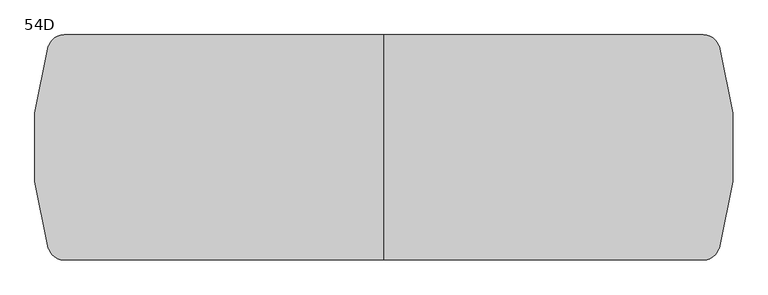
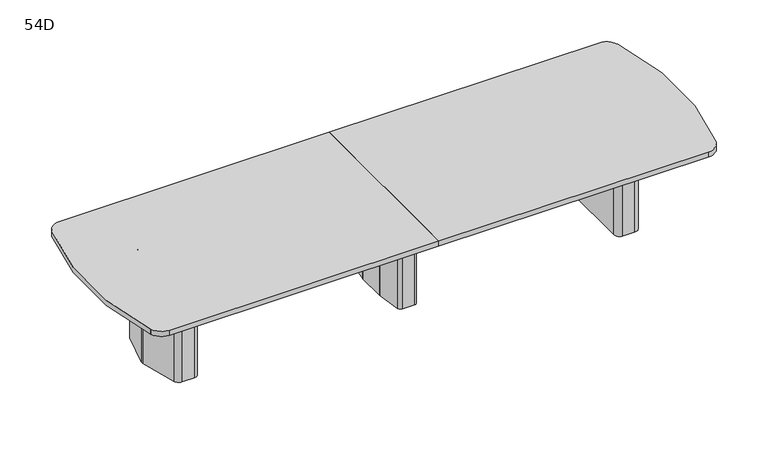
"""IFC4 building model written with IfcOpenShell, lengths in millimetres: furniture geometry, Coalesse_AM_Table_Conference_ETable2_SoftRadiused_14ft_ThreeBase : 54D."""

from ifc_helpers import new_model, si_unit, point, frame, frame_2d, origin, place, context, project, spatial, polyline, circle_curve, trimmed, segment, composite_curve, outline, extrude, source, transform, mapped, element, save
from ifc_brep_helpers import plane_surface, cylinder_surface, revolved_surface, advanced_brep


def furniture_54d_de50ac83(model_context):
    return source(origin(), model_context, "Body", "SolidModel", [
        advanced_brep(
        [(35.71875, 206.375, 3.175), (10.31875, 231.775, 3.175), (-10.31875, 231.775, 3.175), (-35.71875, 206.375, 3.175), (-35.71875, -206.375, 3.175), (-10.31875, -231.775, 3.175), (10.31875, -231.775, 3.175), (35.71875, -206.375, 3.175), (-61.11875, 206.375, 0.0), (-10.31875, 257.175, 0.0), (10.31875, 257.175, 0.0), (61.11875, 206.375, 0.0), (61.11875, -206.375, 0.0), (10.31875, -257.175, 0.0), (-10.31875, -257.175, 0.0), (-61.11875, -206.375, 0.0), (-61.11875, -206.375, 3.175), (-61.11875, 206.375, 3.175), (-10.31875, -257.175, 3.175), (10.31875, -257.175, 3.175), (61.11875, -206.375, 3.175), (61.11875, 206.375, 3.175), (10.31875, 257.175, 3.175), (-10.31875, 257.175, 3.175), (-92.6215974, 106.2976848, 698.5), (-92.86875, 102.7629613, 698.5), (-92.86875, -102.7629613, 698.5), (-92.6215974, -106.2976848, 698.5), (-67.7988375, -282.9347235, 698.5), (-42.6459902, -304.8, 698.5), (42.6459902, -304.8, 698.5), (67.7988375, -282.9347235, 698.5), (92.6215974, -106.2976848, 698.5), (92.86875, -102.7629613, 698.5), (92.86875, 102.7629613, 698.5), (92.6215974, 106.2976848, 698.5), (67.7988375, 282.9347235, 698.5), (42.6459902, 304.8, 698.5), (-42.6459902, 304.8, 698.5), (-67.7988375, 282.9347235, 698.5), (10.31875, 231.775, 698.5), (35.71875, 206.375, 698.5), (35.71875, -206.375, 698.5), (10.31875, -231.775, 698.5), (-10.31875, -231.775, 698.5), (-35.71875, -206.375, 698.5), (-35.71875, 206.375, 698.5), (-10.31875, 231.775, 698.5), (-92.6215974, 106.2976848, 3.175), (-67.7988375, 282.9347235, 3.175), (-42.6459902, 304.8, 3.175), (42.6459902, 304.8, 3.175), (67.7988375, 282.9347235, 3.175), (92.6215974, 106.2976848, 3.175), (92.86875, 102.7629613, 3.175), (92.86875, -102.7629613, 3.175), (92.6215974, -106.2976848, 3.175), (67.7988375, -282.9347235, 3.175), (42.6459902, -304.8, 3.175), (-42.6459902, -304.8, 3.175), (-67.7988375, -282.9347235, 3.175), (-92.6215974, -106.2976848, 3.175), (-92.86875, -102.7629613, 3.175), (-92.86875, 102.7629613, 3.175)],
        [
            (0, 1, circle_curve(frame((10.31875, 206.375, 3.175), z_axis=(0.0, 0.0, 1.0), x_axis=(1.0, 0.0, 0.0)), 25.4)),
            (1, 2),
            (2, 3, circle_curve(frame((-10.31875, 206.375, 3.175), z_axis=(0.0, 0.0, 1.0), x_axis=(1.0, 0.0, 0.0)), 25.4)),
            (3, 4),
            (4, 5, circle_curve(frame((-10.31875, -206.375, 3.175), z_axis=(0.0, 0.0, 1.0), x_axis=(1.0, 0.0, 0.0)), 25.4)),
            (5, 6),
            (6, 7, circle_curve(frame((10.31875, -206.375, 3.175), z_axis=(0.0, 0.0, 1.0), x_axis=(1.0, 0.0, 0.0)), 25.4)),
            (7, 0),
            (8, 9, circle_curve(frame((-10.31875, 206.375, 0.0), z_axis=(0.0, 0.0, -1.0), x_axis=(1.0, 0.0, 0.0)), 50.8)),
            (9, 10),
            (10, 11, circle_curve(frame((10.31875, 206.375, 0.0), z_axis=(0.0, 0.0, -1.0), x_axis=(1.0, 0.0, 0.0)), 50.8)),
            (11, 12),
            (12, 13, circle_curve(frame((10.31875, -206.375, 0.0), z_axis=(0.0, 0.0, -1.0), x_axis=(1.0, 0.0, 0.0)), 50.8)),
            (13, 14),
            (14, 15, circle_curve(frame((-10.31875, -206.375, 0.0), z_axis=(0.0, 0.0, -1.0), x_axis=(1.0, 0.0, 0.0)), 50.8)),
            (15, 8),
            (15, 16),
            (16, 17),
            (17, 8),
            (14, 18),
            (18, 16, circle_curve(frame((-10.31875, -206.375, 3.175), z_axis=(0.0, 0.0, -1.0), x_axis=(1.0, 0.0, 0.0)), 50.8)),
            (13, 19),
            (19, 18),
            (12, 20),
            (20, 19, circle_curve(frame((10.31875, -206.375, 3.175), z_axis=(0.0, 0.0, -1.0), x_axis=(1.0, 0.0, 0.0)), 50.8)),
            (11, 21),
            (21, 20),
            (10, 22),
            (22, 21, circle_curve(frame((10.31875, 206.375, 3.175), z_axis=(0.0, 0.0, -1.0), x_axis=(1.0, 0.0, 0.0)), 50.8)),
            (9, 23),
            (23, 22),
            (17, 23, circle_curve(frame((-10.31875, 206.375, 3.175), z_axis=(0.0, 0.0, -1.0), x_axis=(1.0, 0.0, 0.0)), 50.8)),
            (24, 25, circle_curve(frame((-67.46875, 102.7629613, 698.5), z_axis=(0.0, 0.0, 1.0), x_axis=(1.0, 0.0, 0.0)), 25.4)),
            (25, 26),
            (26, 27, circle_curve(frame((-67.46875, -102.7629613, 698.5), z_axis=(0.0, 0.0, 1.0), x_axis=(1.0, 0.0, 0.0)), 25.4)),
            (27, 28),
            (28, 29, circle_curve(frame((-42.6459902, -279.4, 698.5), z_axis=(0.0, 0.0, 1.0), x_axis=(1.0, 0.0, 0.0)), 25.4)),
            (29, 30),
            (30, 31, circle_curve(frame((42.6459902, -279.4, 698.5), z_axis=(0.0, 0.0, 1.0), x_axis=(1.0, 0.0, 0.0)), 25.4)),
            (31, 32),
            (32, 33, circle_curve(frame((67.46875, -102.7629613, 698.5), z_axis=(0.0, 0.0, 1.0), x_axis=(1.0, 0.0, 0.0)), 25.4)),
            (33, 34),
            (34, 35, circle_curve(frame((67.46875, 102.7629613, 698.5), z_axis=(0.0, 0.0, 1.0), x_axis=(1.0, 0.0, 0.0)), 25.4)),
            (35, 36),
            (36, 37, circle_curve(frame((42.6459902, 279.4, 698.5), z_axis=(0.0, 0.0, 1.0), x_axis=(1.0, 0.0, 0.0)), 25.4)),
            (37, 38),
            (38, 39, circle_curve(frame((-42.6459902, 279.4, 698.5), z_axis=(0.0, 0.0, 1.0), x_axis=(1.0, 0.0, 0.0)), 25.4)),
            (39, 24),
            (40, 41, circle_curve(frame((10.31875, 206.375, 698.5), z_axis=(0.0, 0.0, -1.0), x_axis=(1.0, 0.0, 0.0)), 25.4)),
            (41, 42),
            (42, 43, circle_curve(frame((10.31875, -206.375, 698.5), z_axis=(0.0, 0.0, -1.0), x_axis=(1.0, 0.0, 0.0)), 25.4)),
            (43, 44),
            (44, 45, circle_curve(frame((-10.31875, -206.375, 698.5), z_axis=(0.0, 0.0, -1.0), x_axis=(1.0, 0.0, 0.0)), 25.4)),
            (45, 46),
            (46, 47, circle_curve(frame((-10.31875, 206.375, 698.5), z_axis=(0.0, 0.0, -1.0), x_axis=(1.0, 0.0, 0.0)), 25.4)),
            (47, 40),
            (48, 49),
            (49, 50, circle_curve(frame((-42.6459902, 279.4, 3.175), z_axis=(0.0, 0.0, -1.0), x_axis=(1.0, 0.0, 0.0)), 25.4)),
            (50, 51),
            (51, 52, circle_curve(frame((42.6459902, 279.4, 3.175), z_axis=(0.0, 0.0, -1.0), x_axis=(1.0, 0.0, 0.0)), 25.4)),
            (52, 53),
            (53, 54, circle_curve(frame((67.46875, 102.7629613, 3.175), z_axis=(0.0, 0.0, -1.0), x_axis=(1.0, 0.0, 0.0)), 25.4)),
            (54, 55),
            (55, 56, circle_curve(frame((67.46875, -102.7629613, 3.175), z_axis=(0.0, 0.0, -1.0), x_axis=(1.0, 0.0, 0.0)), 25.4)),
            (56, 57),
            (57, 58, circle_curve(frame((42.6459902, -279.4, 3.175), z_axis=(0.0, 0.0, -1.0), x_axis=(1.0, 0.0, 0.0)), 25.4)),
            (58, 59),
            (59, 60, circle_curve(frame((-42.6459902, -279.4, 3.175), z_axis=(0.0, 0.0, -1.0), x_axis=(1.0, 0.0, 0.0)), 25.4)),
            (60, 61),
            (61, 62, circle_curve(frame((-67.46875, -102.7629613, 3.175), z_axis=(0.0, 0.0, -1.0), x_axis=(1.0, 0.0, 0.0)), 25.4)),
            (62, 63),
            (63, 48, circle_curve(frame((-67.46875, 102.7629613, 3.175), z_axis=(0.0, 0.0, -1.0), x_axis=(1.0, 0.0, 0.0)), 25.4)),
            (24, 48),
            (63, 25),
            (62, 26),
            (61, 27),
            (60, 28),
            (59, 29),
            (58, 30),
            (57, 31),
            (56, 32),
            (55, 33),
            (54, 34),
            (53, 35),
            (52, 36),
            (51, 37),
            (50, 38),
            (49, 39),
            (40, 1),
            (0, 41),
            (7, 42),
            (6, 43),
            (5, 44),
            (4, 45),
            (3, 46),
            (2, 47),
        ],
        [
            plane_surface(frame((-61.11875, -206.375, 3.175), z_axis=(0.0, 0.0, 1.0), x_axis=(0.0, -1.0, 0.0))),
            plane_surface(frame((-61.11875, -206.375, 0.0), z_axis=(0.0, 0.0, -1.0), x_axis=(0.0, 1.0, 0.0))),
            plane_surface(frame((-61.11875, 206.375, 3.175), z_axis=(-1.0, 0.0, 0.0), x_axis=(0.0, 0.0, -1.0))),
            cylinder_surface(frame((-10.31875, -206.375, 0.0), z_axis=(0.0, 0.0, 1.0), x_axis=(1.0, 0.0, 0.0)), 50.8),
            plane_surface(frame((-10.31875, -257.175, 3.175), z_axis=(0.0, -1.0, 0.0), x_axis=(0.0, 0.0, -1.0))),
            cylinder_surface(frame((10.31875, -206.375, 0.0), z_axis=(0.0, 0.0, 1.0), x_axis=(1.0, 0.0, 0.0)), 50.8),
            plane_surface(frame((61.11875, -206.375, 3.175), z_axis=(1.0, 0.0, 0.0), x_axis=(0.0, 0.0, -1.0))),
            cylinder_surface(frame((10.31875, 206.375, 0.0), z_axis=(0.0, 0.0, 1.0), x_axis=(1.0, 0.0, 0.0)), 50.8),
            plane_surface(frame((10.31875, 257.175, 3.175), z_axis=(0.0, 1.0, 0.0), x_axis=(0.0, 0.0, -1.0))),
            cylinder_surface(frame((-10.31875, 206.375, 0.0), z_axis=(0.0, 0.0, 1.0), x_axis=(1.0, 0.0, 0.0)), 50.8),
            plane_surface(frame((-42.06875, 102.7629613, 698.5), z_axis=(0.0, 0.0, 1.0), x_axis=(0.0, 1.0, 0.0))),
            plane_surface(frame((-42.06875, 102.7629613, 3.175), z_axis=(0.0, 0.0, -1.0), x_axis=(0.0, -1.0, 0.0))),
            cylinder_surface(frame((-67.46875, 102.7629613, 3.175), z_axis=(0.0, 0.0, 1.0), x_axis=(1.0, 0.0, 0.0)), 25.4),
            plane_surface(frame((-92.86875, 102.7629613, 698.5), z_axis=(-1.0, 0.0, 0.0), x_axis=(0.0, 0.0, -1.0))),
            cylinder_surface(frame((-67.46875, -102.7629613, 3.175), z_axis=(0.0, 0.0, 1.0), x_axis=(1.0, 0.0, 0.0)), 25.4),
            plane_surface(frame((-92.6215974, -106.2976848, 698.5), z_axis=(-0.9902695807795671, -0.13916234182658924, 0.0), x_axis=(0.0, 0.0, -1.0))),
            cylinder_surface(frame((-42.6459902, -279.4, 3.175), z_axis=(0.0, 0.0, 1.0), x_axis=(1.0, 0.0, 0.0)), 25.4),
            plane_surface(frame((-42.6459902, -304.8, 698.5), z_axis=(0.0, -1.0, 0.0), x_axis=(0.0, 0.0, -1.0))),
            cylinder_surface(frame((42.6459902, -279.4, 3.175), z_axis=(0.0, 0.0, 1.0), x_axis=(1.0, 0.0, 0.0)), 25.4),
            plane_surface(frame((67.7988375, -282.9347235, 698.5), z_axis=(0.9902695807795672, -0.13916234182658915, 0.0), x_axis=(0.0, 0.0, -1.0))),
            cylinder_surface(frame((67.46875, -102.7629613, 3.175), z_axis=(0.0, 0.0, 1.0), x_axis=(1.0, 0.0, 0.0)), 25.4),
            plane_surface(frame((92.86875, -102.7629613, 698.5), z_axis=(1.0, 0.0, 0.0), x_axis=(0.0, 0.0, -1.0))),
            cylinder_surface(frame((67.46875, 102.7629613, 3.175), z_axis=(0.0, 0.0, 1.0), x_axis=(1.0, 0.0, 0.0)), 25.4),
            plane_surface(frame((92.6215974, 106.2976848, 698.5), z_axis=(0.9902695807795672, 0.1391623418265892, 0.0), x_axis=(0.0, 0.0, -1.0))),
            cylinder_surface(frame((42.6459902, 279.4, 3.175), z_axis=(0.0, 0.0, 1.0), x_axis=(1.0, 0.0, 0.0)), 25.4),
            plane_surface(frame((42.6459902, 304.8, 698.5), z_axis=(0.0, 1.0, 0.0), x_axis=(0.0, 0.0, -1.0))),
            cylinder_surface(frame((-42.6459902, 279.4, 3.175), z_axis=(0.0, 0.0, 1.0), x_axis=(1.0, 0.0, 0.0)), 25.4),
            plane_surface(frame((-67.7988375, 282.9347235, 698.5), z_axis=(-0.9902695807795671, 0.13916234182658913, 0.0), x_axis=(0.0, 0.0, -1.0))),
            revolved_surface(polyline([(35.71875, 206.375, 3.175), (35.71875, 206.375, 698.5)]), (10.31875, 206.375, 0.0), (0.0, 0.0, -1.0)),
            plane_surface(frame((35.71875, 206.375, 698.5), z_axis=(-1.0, 0.0, 0.0), x_axis=(0.0, 0.0, -1.0))),
            revolved_surface(polyline([(35.71875, -206.375, 3.175), (35.71875, -206.375, 698.5)]), (10.31875, -206.375, 0.0), (0.0, 0.0, -1.0)),
            plane_surface(frame((10.31875, -231.775, 698.5), z_axis=(0.0, 1.0, 0.0), x_axis=(0.0, 0.0, -1.0))),
            revolved_surface(polyline([(15.081249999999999, -206.375, 3.175), (15.081249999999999, -206.375, 698.5)]), (-10.31875, -206.375, 0.0), (0.0, 0.0, -1.0)),
            plane_surface(frame((-35.71875, -206.375, 698.5), z_axis=(1.0, 0.0, 0.0), x_axis=(0.0, 0.0, -1.0))),
            revolved_surface(polyline([(15.081249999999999, 206.375, 3.175), (15.081249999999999, 206.375, 698.5)]), (-10.31875, 206.375, 0.0), (0.0, 0.0, -1.0)),
            plane_surface(frame((-10.31875, 231.775, 698.5), z_axis=(0.0, -1.0, 0.0), x_axis=(0.0, 0.0, -1.0))),
        ],
        [
            (0, [[1, 2, 3, 4, 5, 6, 7, 8]]),
            (1, [[9, 10, 11, 12, 13, 14, 15, 16]]),
            (2, [[-16, 17, 18, 19]]),
            (3, [[-15, 20, 21, -17]]),
            (4, [[-14, 22, 23, -20]]),
            (5, [[-13, 24, 25, -22]]),
            (6, [[-12, 26, 27, -24]]),
            (7, [[-11, 28, 29, -26]]),
            (8, [[-10, 30, 31, -28]]),
            (9, [[-9, -19, 32, -30]]),
            (10, [[33, 34, 35, 36, 37, 38, 39, 40, 41, 42, 43, 44, 45, 46, 47, 48], [49, 50, 51, 52, 53, 54, 55, 56]]),
            (11, [[57, 58, 59, 60, 61, 62, 63, 64, 65, 66, 67, 68, 69, 70, 71, 72], [-18, -21, -23, -25, -27, -29, -31, -32]]),
            (12, [[-33, 73, -72, 74]]),
            (13, [[-34, -74, -71, 75]]),
            (14, [[-35, -75, -70, 76]]),
            (15, [[-36, -76, -69, 77]]),
            (16, [[-37, -77, -68, 78]]),
            (17, [[-38, -78, -67, 79]]),
            (18, [[-39, -79, -66, 80]]),
            (19, [[-40, -80, -65, 81]]),
            (20, [[-41, -81, -64, 82]]),
            (21, [[-42, -82, -63, 83]]),
            (22, [[-43, -83, -62, 84]]),
            (23, [[-44, -84, -61, 85]]),
            (24, [[-45, -85, -60, 86]]),
            (25, [[-46, -86, -59, 87]]),
            (26, [[-47, -87, -58, 88]]),
            (27, [[-48, -88, -57, -73]]),
            (28, [[-49, 89, -1, 90]]),
            (29, [[-50, -90, -8, 91]]),
            (30, [[-51, -91, -7, 92]]),
            (31, [[-52, -92, -6, 93]]),
            (32, [[-53, -93, -5, 94]]),
            (33, [[-54, -94, -4, 95]]),
            (34, [[-55, -95, -3, 96]]),
            (35, [[-56, -96, -2, -89]]),
        ],
    ),
        advanced_brep(
        [(1675.024548, 274.2093613, 698.5), (1635.1579246, 304.8, 698.5), (1546.225, 304.8, 698.5), (1504.95, 263.525, 698.5), (1504.95, -263.525, 698.5), (1546.225, -304.8, 698.5), (1635.1579246, -304.8, 698.5), (1675.024548, -274.2093613, 698.5), (1745.6503901, -10.6333708, 698.5), (1745.6503901, 10.6333708, 698.5), (1543.05, -206.375, 698.5), (1543.05, 206.375, 698.5), (1568.45, 231.775, 698.5), (1627.4608422, 231.775, 698.5), (1651.995338, 212.9490792, 698.5), (1690.6875, 68.54974, 698.5), (1690.6875, -68.54974, 698.5), (1651.995338, -212.9490792, 698.5), (1627.4608422, -231.775, 698.5), (1568.45, -231.775, 698.5), (1675.024548, 274.2093613, 3.175), (1745.6503901, 10.6333708, 3.175), (1745.6503901, -10.6333708, 3.175), (1675.024548, -274.2093613, 3.175), (1635.1579246, -304.8, 3.175), (1546.225, -304.8, 3.175), (1504.95, -263.525, 3.175), (1504.95, 263.525, 3.175), (1546.225, 304.8, 3.175), (1635.1579246, 304.8, 3.175), (1664.2625859, 216.2361187, 3.175), (1627.4608422, 244.475, 3.175), (1568.45, 244.475, 3.175), (1530.35, 206.375, 3.175), (1530.35, -206.375, 3.175), (1568.45, -244.475, 3.175), (1627.4608422, -244.475, 3.175), (1664.2625859, -216.2361187, 3.175), (1703.3875, -70.2217466, 3.175), (1703.3875, 70.2217466, 3.175), (1568.45, -231.775, 3.175), (1543.05, -206.375, 3.175), (1627.4608422, -231.775, 3.175), (1651.995338, -212.9490792, 3.175), (1690.6875, -68.54974, 3.175), (1690.6875, 68.54974, 3.175), (1651.995338, 212.9490792, 3.175), (1627.4608422, 231.775, 3.175), (1568.45, 231.775, 3.175), (1543.05, 206.375, 3.175), (1664.2625859, 216.2361187, 0.0), (1703.3875, 70.2217466, 0.0), (1703.3875, -70.2217466, 0.0), (1664.2625859, -216.2361187, 0.0), (1627.4608422, -244.475, 0.0), (1568.45, -244.475, 0.0), (1530.35, -206.375, 0.0), (1530.35, 206.375, 0.0), (1568.45, 244.475, 0.0), (1627.4608422, 244.475, 0.0)],
        [
            (0, 1, circle_curve(frame((1635.1579246, 263.5270004, 698.5), z_axis=(0.0, 0.0, 1.0), x_axis=(-1.0, 0.0, 0.0)), 41.2729996)),
            (1, 2),
            (2, 3, circle_curve(frame((1546.225, 263.525, 698.5), z_axis=(0.0, 0.0, 1.0), x_axis=(-1.0, 0.0, 0.0)), 41.275)),
            (3, 4),
            (4, 5, circle_curve(frame((1546.225, -263.525, 698.5), z_axis=(0.0, 0.0, 1.0), x_axis=(-1.0, 0.0, 0.0)), 41.275)),
            (5, 6),
            (6, 7, circle_curve(frame((1635.1579246, -263.5270004, 698.5), z_axis=(0.0, 0.0, 1.0), x_axis=(-1.0, 0.0, 0.0)), 41.2729996)),
            (7, 8),
            (8, 9, circle_curve(frame((1705.9665979, 0.0, 698.5), z_axis=(0.0, 0.0, 1.0), x_axis=(-1.0, 0.0, 0.0)), 41.0837187)),
            (9, 0),
            (10, 11),
            (11, 12, circle_curve(frame((1568.45, 206.375, 698.5), z_axis=(0.0, 0.0, -1.0), x_axis=(-1.0, 0.0, 0.0)), 25.4)),
            (12, 13),
            (13, 14, circle_curve(frame((1627.4608422, 206.375, 698.5), z_axis=(0.0, 0.0, -1.0), x_axis=(-1.0, 0.0, 0.0)), 25.4)),
            (14, 15),
            (15, 16),
            (16, 17),
            (17, 18, circle_curve(frame((1627.4608422, -206.375, 698.5), z_axis=(0.0, 0.0, -1.0), x_axis=(-1.0, 0.0, 0.0)), 25.4)),
            (18, 19),
            (19, 10, circle_curve(frame((1568.45, -206.375, 698.5), z_axis=(0.0, 0.0, -1.0), x_axis=(-1.0, 0.0, 0.0)), 25.4)),
            (20, 21),
            (21, 22, circle_curve(frame((1705.9665979, 0.0, 3.175), z_axis=(0.0, 0.0, -1.0), x_axis=(-1.0, 0.0, 0.0)), 41.0837187)),
            (22, 23),
            (23, 24, circle_curve(frame((1635.1579246, -263.5270004, 3.175), z_axis=(0.0, 0.0, -1.0), x_axis=(-1.0, 0.0, 0.0)), 41.2729996)),
            (24, 25),
            (25, 26, circle_curve(frame((1546.225, -263.525, 3.175), z_axis=(0.0, 0.0, -1.0), x_axis=(-1.0, 0.0, 0.0)), 41.275)),
            (26, 27),
            (27, 28, circle_curve(frame((1546.225, 263.525, 3.175), z_axis=(0.0, 0.0, -1.0), x_axis=(-1.0, 0.0, 0.0)), 41.275)),
            (28, 29),
            (29, 20, circle_curve(frame((1635.1579246, 263.5270004, 3.175), z_axis=(0.0, 0.0, -1.0), x_axis=(-1.0, 0.0, 0.0)), 41.2729996)),
            (30, 31, circle_curve(frame((1627.4608422, 206.375, 3.175), z_axis=(0.0, 0.0, 1.0), x_axis=(-1.0, 0.0, 0.0)), 38.1)),
            (31, 32),
            (32, 33, circle_curve(frame((1568.45, 206.375, 3.175), z_axis=(0.0, 0.0, 1.0), x_axis=(-1.0, 0.0, 0.0)), 38.1)),
            (33, 34),
            (34, 35, circle_curve(frame((1568.45, -206.375, 3.175), z_axis=(0.0, 0.0, 1.0), x_axis=(-1.0, 0.0, 0.0)), 38.1)),
            (35, 36),
            (36, 37, circle_curve(frame((1627.4608422, -206.375, 3.175), z_axis=(0.0, 0.0, 1.0), x_axis=(-1.0, 0.0, 0.0)), 38.1)),
            (37, 38),
            (38, 39),
            (39, 30),
            (9, 21),
            (20, 0),
            (8, 22),
            (7, 23),
            (6, 24),
            (5, 25),
            (4, 26),
            (3, 27),
            (2, 28),
            (1, 29),
            (19, 40),
            (40, 41, circle_curve(frame((1568.45, -206.375, 3.175), z_axis=(0.0, 0.0, -1.0), x_axis=(-1.0, 0.0, 0.0)), 25.4)),
            (41, 10),
            (18, 42),
            (42, 40),
            (17, 43),
            (43, 42, circle_curve(frame((1627.4608422, -206.375, 3.175), z_axis=(0.0, 0.0, -1.0), x_axis=(-1.0, 0.0, 0.0)), 25.4)),
            (16, 44),
            (44, 43),
            (15, 45),
            (45, 44),
            (14, 46),
            (46, 45),
            (13, 47),
            (47, 46, circle_curve(frame((1627.4608422, 206.375, 3.175), z_axis=(0.0, 0.0, -1.0), x_axis=(-1.0, 0.0, 0.0)), 25.4)),
            (12, 48),
            (48, 47),
            (11, 49),
            (49, 48, circle_curve(frame((1568.45, 206.375, 3.175), z_axis=(0.0, 0.0, -1.0), x_axis=(-1.0, 0.0, 0.0)), 25.4)),
            (41, 49),
            (50, 51),
            (51, 52),
            (52, 53),
            (53, 54, circle_curve(frame((1627.4608422, -206.375, 0.0), z_axis=(0.0, 0.0, -1.0), x_axis=(-1.0, 0.0, 0.0)), 38.1)),
            (54, 55),
            (55, 56, circle_curve(frame((1568.45, -206.375, 0.0), z_axis=(0.0, 0.0, -1.0), x_axis=(-1.0, 0.0, 0.0)), 38.1)),
            (56, 57),
            (57, 58, circle_curve(frame((1568.45, 206.375, 0.0), z_axis=(0.0, 0.0, -1.0), x_axis=(-1.0, 0.0, 0.0)), 38.1)),
            (58, 59),
            (59, 50, circle_curve(frame((1627.4608422, 206.375, 0.0), z_axis=(0.0, 0.0, -1.0), x_axis=(-1.0, 0.0, 0.0)), 38.1)),
            (50, 30),
            (39, 51),
            (38, 52),
            (37, 53),
            (36, 54),
            (35, 55),
            (34, 56),
            (33, 57),
            (32, 58),
            (31, 59),
        ],
        [
            plane_surface(frame((1745.6374275, 10.6817473, 698.5), z_axis=(0.0, 0.0, 1.0000000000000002), x_axis=(0.25882201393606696, -0.9659250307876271, 0.0))),
            plane_surface(frame((1745.6374275, 10.6817473, 3.175), z_axis=(0.0, 0.0, -1.0000000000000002), x_axis=(-0.25882201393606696, 0.9659250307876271, 0.0))),
            plane_surface(frame((1675.024548, 274.2093613, 698.5), z_axis=(0.9659250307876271, 0.25882201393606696, 0.0), x_axis=(0.0, 0.0, -1.0))),
            cylinder_surface(frame((1705.9665979, 0.0, 3.175), z_axis=(0.0, 0.0, 1.0), x_axis=(-1.0, 0.0, 0.0)), 41.0837187),
            plane_surface(frame((1745.6503901, -10.6333708, 698.5), z_axis=(0.9659250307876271, -0.2588220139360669, 0.0), x_axis=(0.0, 0.0, -1.0))),
            cylinder_surface(frame((1635.1579246, -263.5270004, 3.175), z_axis=(0.0, 0.0, 1.0), x_axis=(-1.0, 0.0, 0.0)), 41.2729996),
            plane_surface(frame((1635.1579246, -304.8, 698.5), z_axis=(0.0, -1.0, 0.0), x_axis=(0.0, 0.0, -1.0))),
            cylinder_surface(frame((1546.225, -263.525, 3.175), z_axis=(0.0, 0.0, 1.0), x_axis=(-1.0, 0.0, 0.0)), 41.275),
            plane_surface(frame((1504.95, -263.525, 698.5), z_axis=(-1.0, 0.0, 0.0), x_axis=(0.0, 0.0, -1.0))),
            cylinder_surface(frame((1546.225, 263.525, 3.175), z_axis=(0.0, 0.0, 1.0), x_axis=(-1.0, 0.0, 0.0)), 41.275),
            plane_surface(frame((1546.225, 304.8, 698.5), z_axis=(0.0, 1.0, 0.0), x_axis=(0.0, 0.0, -1.0))),
            cylinder_surface(frame((1635.1579246, 263.5270004, 3.175), z_axis=(0.0, 0.0, 1.0), x_axis=(-1.0, 0.0, 0.0)), 41.2729996),
            revolved_surface(polyline([(1543.05, -206.375, 3.175), (1543.05, -206.375, 698.5)]), (1568.45, -206.375, 0.0), (0.0, 0.0, -1.0)),
            plane_surface(frame((1568.45, -231.775, 698.5), z_axis=(0.0, 1.0, 0.0), x_axis=(0.0, 0.0, -1.0))),
            revolved_surface(polyline([(1602.0608421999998, -206.375, 3.175), (1602.0608421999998, -206.375, 698.5)]), (1627.4608422, -206.375, 0.0), (0.0, 0.0, -1.0)),
            plane_surface(frame((1651.995338, -212.9490792, 698.5), z_axis=(-0.9659250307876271, 0.2588220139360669, 0.0), x_axis=(0.0, 0.0, -1.0))),
            plane_surface(frame((1690.6875, -68.54974, 698.5), z_axis=(-1.0, 0.0, 0.0), x_axis=(0.0, 0.0, -1.0))),
            plane_surface(frame((1690.6875, 68.54974, 698.5), z_axis=(-0.9659250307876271, -0.25882201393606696, 0.0), x_axis=(0.0, 0.0, -1.0))),
            revolved_surface(polyline([(1602.0608421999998, 206.375, 3.175), (1602.0608421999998, 206.375, 698.5)]), (1627.4608422, 206.375, 0.0), (0.0, 0.0, -1.0)),
            plane_surface(frame((1627.4608422, 231.775, 698.5), z_axis=(0.0, -1.0, 0.0), x_axis=(0.0, 0.0, -1.0))),
            revolved_surface(polyline([(1543.05, 206.375, 3.175), (1543.05, 206.375, 698.5)]), (1568.45, 206.375, 0.0), (0.0, 0.0, -1.0)),
            plane_surface(frame((1543.05, 206.375, 698.5), z_axis=(1.0, 0.0, 0.0), x_axis=(0.0, 0.0, -1.0))),
            plane_surface(frame((1702.9547479, 71.8367796, 3.175), z_axis=(0.0, 0.0, 1.0), x_axis=(0.25882201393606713, -0.965925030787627, 0.0))),
            plane_surface(frame((1702.9547479, 71.8367796, 0.0), z_axis=(0.0, 0.0, -1.0), x_axis=(-0.25882201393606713, 0.965925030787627, 0.0))),
            plane_surface(frame((1664.2625859, 216.2361187, 3.175), z_axis=(0.965925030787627, 0.25882201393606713, 0.0), x_axis=(0.0, 0.0, -1.0))),
            plane_surface(frame((1703.3875, 70.2217466, 3.175), z_axis=(1.0, 0.0, 0.0), x_axis=(0.0, 0.0, -1.0))),
            plane_surface(frame((1703.3875, -70.2217466, 3.175), z_axis=(0.9659250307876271, -0.2588220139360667, 0.0), x_axis=(0.0, 0.0, -1.0))),
            cylinder_surface(frame((1627.4608422, -206.375, 0.0), z_axis=(0.0, 0.0, 1.0), x_axis=(-1.0, 0.0, 0.0)), 38.1),
            plane_surface(frame((1627.4608422, -244.475, 3.175), z_axis=(0.0, -1.0, 0.0), x_axis=(0.0, 0.0, -1.0))),
            cylinder_surface(frame((1568.45, -206.375, 0.0), z_axis=(0.0, 0.0, 1.0), x_axis=(-1.0, 0.0, 0.0)), 38.1),
            plane_surface(frame((1530.35, -206.375, 3.175), z_axis=(-1.0, 0.0, 0.0), x_axis=(0.0, 0.0, -1.0))),
            cylinder_surface(frame((1568.45, 206.375, 0.0), z_axis=(0.0, 0.0, 1.0), x_axis=(-1.0, 0.0, 0.0)), 38.1),
            plane_surface(frame((1568.45, 244.475, 3.175), z_axis=(0.0, 1.0, 0.0), x_axis=(0.0, 0.0, -1.0))),
            cylinder_surface(frame((1627.4608422, 206.375, 0.0), z_axis=(0.0, 0.0, 1.0), x_axis=(-1.0, 0.0, 0.0)), 38.1),
        ],
        [
            (0, [[1, 2, 3, 4, 5, 6, 7, 8, 9, 10], [11, 12, 13, 14, 15, 16, 17, 18, 19, 20]]),
            (1, [[21, 22, 23, 24, 25, 26, 27, 28, 29, 30], [31, 32, 33, 34, 35, 36, 37, 38, 39, 40]]),
            (2, [[41, -21, 42, -10]]),
            (3, [[43, -22, -41, -9]]),
            (4, [[44, -23, -43, -8]]),
            (5, [[45, -24, -44, -7]]),
            (6, [[46, -25, -45, -6]]),
            (7, [[47, -26, -46, -5]]),
            (8, [[48, -27, -47, -4]]),
            (9, [[49, -28, -48, -3]]),
            (10, [[50, -29, -49, -2]]),
            (11, [[-42, -30, -50, -1]]),
            (12, [[51, 52, 53, -20]]),
            (13, [[54, 55, -51, -19]]),
            (14, [[56, 57, -54, -18]]),
            (15, [[58, 59, -56, -17]]),
            (16, [[60, 61, -58, -16]]),
            (17, [[62, 63, -60, -15]]),
            (18, [[64, 65, -62, -14]]),
            (19, [[66, 67, -64, -13]]),
            (20, [[68, 69, -66, -12]]),
            (21, [[-53, 70, -68, -11]]),
            (22, [[-55, -57, -59, -61, -63, -65, -67, -69, -70, -52]]),
            (23, [[71, 72, 73, 74, 75, 76, 77, 78, 79, 80]]),
            (24, [[81, -40, 82, -71]]),
            (25, [[-82, -39, 83, -72]]),
            (26, [[-83, -38, 84, -73]]),
            (27, [[-84, -37, 85, -74]]),
            (28, [[-85, -36, 86, -75]]),
            (29, [[-86, -35, 87, -76]]),
            (30, [[-87, -34, 88, -77]]),
            (31, [[-88, -33, 89, -78]]),
            (32, [[-89, -32, 90, -79]]),
            (33, [[-90, -31, -81, -80]]),
        ],
    ),
        advanced_brep(
        [(-1675.024548, 274.2093613, 698.5), (-1745.6503901, 10.6333708, 698.5), (-1745.6503901, -10.6333708, 698.5), (-1675.024548, -274.2093613, 698.5), (-1635.1579246, -304.8, 698.5), (-1546.225, -304.8, 698.5), (-1504.95, -263.525, 698.5), (-1504.95, 263.525, 698.5), (-1546.225, 304.8, 698.5), (-1635.1579246, 304.8, 698.5), (-1543.05, -206.375, 698.5), (-1568.45, -231.775, 698.5), (-1627.4608422, -231.775, 698.5), (-1651.995338, -212.9490792, 698.5), (-1690.6875, -68.54974, 698.5), (-1690.6875, 68.54974, 698.5), (-1651.995338, 212.9490792, 698.5), (-1627.4608422, 231.775, 698.5), (-1568.45, 231.775, 698.5), (-1543.05, 206.375, 698.5), (-1675.024548, 274.2093613, 3.175), (-1635.1579246, 304.8, 3.175), (-1546.225, 304.8, 3.175), (-1504.95, 263.525, 3.175), (-1504.95, -263.525, 3.175), (-1546.225, -304.8, 3.175), (-1635.1579246, -304.8, 3.175), (-1675.024548, -274.2093613, 3.175), (-1745.6503901, -10.6333708, 3.175), (-1745.6503901, 10.6333708, 3.175), (-1664.2625859, 216.2361187, 3.175), (-1703.3875, 70.2217466, 3.175), (-1703.3875, -70.2217466, 3.175), (-1664.2625859, -216.2361187, 3.175), (-1627.4608422, -244.475, 3.175), (-1568.45, -244.475, 3.175), (-1530.35, -206.375, 3.175), (-1530.35, 206.375, 3.175), (-1568.45, 244.475, 3.175), (-1627.4608422, 244.475, 3.175), (-1543.05, -206.375, 3.175), (-1568.45, -231.775, 3.175), (-1627.4608422, -231.775, 3.175), (-1651.995338, -212.9490792, 3.175), (-1690.6875, -68.54974, 3.175), (-1690.6875, 68.54974, 3.175), (-1651.995338, 212.9490792, 3.175), (-1627.4608422, 231.775, 3.175), (-1568.45, 231.775, 3.175), (-1543.05, 206.375, 3.175), (-1664.2625859, 216.2361187, 0.0), (-1627.4608422, 244.475, 0.0), (-1568.45, 244.475, 0.0), (-1530.35, 206.375, 0.0), (-1530.35, -206.375, 0.0), (-1568.45, -244.475, 0.0), (-1627.4608422, -244.475, 0.0), (-1664.2625859, -216.2361187, 0.0), (-1703.3875, -70.2217466, 0.0), (-1703.3875, 70.2217466, 0.0)],
        [
            (0, 1),
            (1, 2, circle_curve(frame((-1705.9665979, 0.0, 698.5), z_axis=(0.0, 0.0, 1.0), x_axis=(1.0, 0.0, 0.0)), 41.0837187)),
            (2, 3),
            (3, 4, circle_curve(frame((-1635.1579246, -263.5270004, 698.5), z_axis=(0.0, 0.0, 1.0), x_axis=(1.0, 0.0, 0.0)), 41.2729996)),
            (4, 5),
            (5, 6, circle_curve(frame((-1546.225, -263.525, 698.5), z_axis=(0.0, 0.0, 1.0), x_axis=(1.0, 0.0, 0.0)), 41.275)),
            (6, 7),
            (7, 8, circle_curve(frame((-1546.225, 263.525, 698.5), z_axis=(0.0, 0.0, 1.0), x_axis=(1.0, 0.0, 0.0)), 41.275)),
            (8, 9),
            (9, 0, circle_curve(frame((-1635.1579246, 263.5270004, 698.5), z_axis=(0.0, 0.0, 1.0), x_axis=(1.0, 0.0, 0.0)), 41.2729996)),
            (10, 11, circle_curve(frame((-1568.45, -206.375, 698.5), z_axis=(0.0, 0.0, -1.0), x_axis=(1.0, 0.0, 0.0)), 25.4)),
            (11, 12),
            (12, 13, circle_curve(frame((-1627.4608422, -206.375, 698.5), z_axis=(0.0, 0.0, -1.0), x_axis=(1.0, 0.0, 0.0)), 25.4)),
            (13, 14),
            (14, 15),
            (15, 16),
            (16, 17, circle_curve(frame((-1627.4608422, 206.375, 698.5), z_axis=(0.0, 0.0, -1.0), x_axis=(1.0, 0.0, 0.0)), 25.4)),
            (17, 18),
            (18, 19, circle_curve(frame((-1568.45, 206.375, 698.5), z_axis=(0.0, 0.0, -1.0), x_axis=(1.0, 0.0, 0.0)), 25.4)),
            (19, 10),
            (20, 21, circle_curve(frame((-1635.1579246, 263.5270004, 3.175), z_axis=(0.0, 0.0, -1.0), x_axis=(1.0, 0.0, 0.0)), 41.2729996)),
            (21, 22),
            (22, 23, circle_curve(frame((-1546.225, 263.525, 3.175), z_axis=(0.0, 0.0, -1.0), x_axis=(1.0, 0.0, 0.0)), 41.275)),
            (23, 24),
            (24, 25, circle_curve(frame((-1546.225, -263.525, 3.175), z_axis=(0.0, 0.0, -1.0), x_axis=(1.0, 0.0, 0.0)), 41.275)),
            (25, 26),
            (26, 27, circle_curve(frame((-1635.1579246, -263.5270004, 3.175), z_axis=(0.0, 0.0, -1.0), x_axis=(1.0, 0.0, 0.0)), 41.2729996)),
            (27, 28),
            (28, 29, circle_curve(frame((-1705.9665979, 0.0, 3.175), z_axis=(0.0, 0.0, -1.0), x_axis=(1.0, 0.0, 0.0)), 41.0837187)),
            (29, 20),
            (30, 31),
            (31, 32),
            (32, 33),
            (33, 34, circle_curve(frame((-1627.4608422, -206.375, 3.175), z_axis=(0.0, 0.0, 1.0), x_axis=(1.0, 0.0, 0.0)), 38.1)),
            (34, 35),
            (35, 36, circle_curve(frame((-1568.45, -206.375, 3.175), z_axis=(0.0, 0.0, 1.0), x_axis=(1.0, 0.0, 0.0)), 38.1)),
            (36, 37),
            (37, 38, circle_curve(frame((-1568.45, 206.375, 3.175), z_axis=(0.0, 0.0, 1.0), x_axis=(1.0, 0.0, 0.0)), 38.1)),
            (38, 39),
            (39, 30, circle_curve(frame((-1627.4608422, 206.375, 3.175), z_axis=(0.0, 0.0, 1.0), x_axis=(1.0, 0.0, 0.0)), 38.1)),
            (0, 20),
            (29, 1),
            (28, 2),
            (27, 3),
            (26, 4),
            (25, 5),
            (24, 6),
            (23, 7),
            (22, 8),
            (21, 9),
            (10, 40),
            (40, 41, circle_curve(frame((-1568.45, -206.375, 3.175), z_axis=(0.0, 0.0, -1.0), x_axis=(1.0, 0.0, 0.0)), 25.4)),
            (41, 11),
            (41, 42),
            (42, 12),
            (42, 43, circle_curve(frame((-1627.4608422, -206.375, 3.175), z_axis=(0.0, 0.0, -1.0), x_axis=(1.0, 0.0, 0.0)), 25.4)),
            (43, 13),
            (43, 44),
            (44, 14),
            (44, 45),
            (45, 15),
            (45, 46),
            (46, 16),
            (46, 47, circle_curve(frame((-1627.4608422, 206.375, 3.175), z_axis=(0.0, 0.0, -1.0), x_axis=(1.0, 0.0, 0.0)), 25.4)),
            (47, 17),
            (47, 48),
            (48, 18),
            (48, 49, circle_curve(frame((-1568.45, 206.375, 3.175), z_axis=(0.0, 0.0, -1.0), x_axis=(1.0, 0.0, 0.0)), 25.4)),
            (49, 19),
            (49, 40),
            (50, 51, circle_curve(frame((-1627.4608422, 206.375, 0.0), z_axis=(0.0, 0.0, -1.0), x_axis=(1.0, 0.0, 0.0)), 38.1)),
            (51, 52),
            (52, 53, circle_curve(frame((-1568.45, 206.375, 0.0), z_axis=(0.0, 0.0, -1.0), x_axis=(1.0, 0.0, 0.0)), 38.1)),
            (53, 54),
            (54, 55, circle_curve(frame((-1568.45, -206.375, 0.0), z_axis=(0.0, 0.0, -1.0), x_axis=(1.0, 0.0, 0.0)), 38.1)),
            (55, 56),
            (56, 57, circle_curve(frame((-1627.4608422, -206.375, 0.0), z_axis=(0.0, 0.0, -1.0), x_axis=(1.0, 0.0, 0.0)), 38.1)),
            (57, 58),
            (58, 59),
            (59, 50),
            (59, 31),
            (30, 50),
            (58, 32),
            (57, 33),
            (56, 34),
            (55, 35),
            (54, 36),
            (53, 37),
            (52, 38),
            (51, 39),
        ],
        [
            plane_surface(frame((-1745.6374275, 10.6817473, 698.5), z_axis=(0.0, 0.0, 1.0000000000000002), x_axis=(-0.25882201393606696, -0.9659250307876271, 0.0))),
            plane_surface(frame((-1745.6374275, 10.6817473, 3.175), z_axis=(0.0, 0.0, -1.0000000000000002), x_axis=(0.25882201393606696, 0.9659250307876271, 0.0))),
            plane_surface(frame((-1675.024548, 274.2093613, 698.5), z_axis=(-0.9659250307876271, 0.25882201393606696, 0.0), x_axis=(0.0, 0.0, -1.0))),
            cylinder_surface(frame((-1705.9665979, 0.0, 3.175), z_axis=(0.0, 0.0, 1.0), x_axis=(1.0, 0.0, 0.0)), 41.0837187),
            plane_surface(frame((-1745.6503901, -10.6333708, 698.5), z_axis=(-0.9659250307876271, -0.2588220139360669, 0.0), x_axis=(0.0, 0.0, -1.0))),
            cylinder_surface(frame((-1635.1579246, -263.5270004, 3.175), z_axis=(0.0, 0.0, 1.0), x_axis=(1.0, 0.0, 0.0)), 41.2729996),
            plane_surface(frame((-1635.1579246, -304.8, 698.5), z_axis=(0.0, -1.0, 0.0), x_axis=(0.0, 0.0, -1.0))),
            cylinder_surface(frame((-1546.225, -263.525, 3.175), z_axis=(0.0, 0.0, 1.0), x_axis=(1.0, 0.0, 0.0)), 41.275),
            plane_surface(frame((-1504.95, -263.525, 698.5), z_axis=(1.0, 0.0, 0.0), x_axis=(0.0, 0.0, -1.0))),
            cylinder_surface(frame((-1546.225, 263.525, 3.175), z_axis=(0.0, 0.0, 1.0), x_axis=(1.0, 0.0, 0.0)), 41.275),
            plane_surface(frame((-1546.225, 304.8, 698.5), z_axis=(0.0, 1.0, 0.0), x_axis=(0.0, 0.0, -1.0))),
            cylinder_surface(frame((-1635.1579246, 263.5270004, 3.175), z_axis=(0.0, 0.0, 1.0), x_axis=(1.0, 0.0, 0.0)), 41.2729996),
            revolved_surface(polyline([(-1543.05, -206.375, 3.175), (-1543.05, -206.375, 698.5)]), (-1568.45, -206.375, 0.0), (0.0, 0.0, -1.0)),
            plane_surface(frame((-1568.45, -231.775, 698.5), z_axis=(0.0, 1.0, 0.0), x_axis=(0.0, 0.0, -1.0))),
            revolved_surface(polyline([(-1602.0608421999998, -206.375, 3.175), (-1602.0608421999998, -206.375, 698.5)]), (-1627.4608422, -206.375, 0.0), (0.0, 0.0, -1.0)),
            plane_surface(frame((-1651.995338, -212.9490792, 698.5), z_axis=(0.9659250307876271, 0.2588220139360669, 0.0), x_axis=(0.0, 0.0, -1.0))),
            plane_surface(frame((-1690.6875, -68.54974, 698.5), z_axis=(1.0, 0.0, 0.0), x_axis=(0.0, 0.0, -1.0))),
            plane_surface(frame((-1690.6875, 68.54974, 698.5), z_axis=(0.9659250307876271, -0.25882201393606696, 0.0), x_axis=(0.0, 0.0, -1.0))),
            revolved_surface(polyline([(-1602.0608421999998, 206.375, 3.175), (-1602.0608421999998, 206.375, 698.5)]), (-1627.4608422, 206.375, 0.0), (0.0, 0.0, -1.0)),
            plane_surface(frame((-1627.4608422, 231.775, 698.5), z_axis=(0.0, -1.0, 0.0), x_axis=(0.0, 0.0, -1.0))),
            revolved_surface(polyline([(-1543.05, 206.375, 3.175), (-1543.05, 206.375, 698.5)]), (-1568.45, 206.375, 0.0), (0.0, 0.0, -1.0)),
            plane_surface(frame((-1543.05, 206.375, 698.5), z_axis=(-1.0, 0.0, 0.0), x_axis=(0.0, 0.0, -1.0))),
            plane_surface(frame((-1702.9547479, 71.8367796, 3.175), z_axis=(0.0, 0.0, 1.0), x_axis=(-0.25882201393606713, -0.965925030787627, 0.0))),
            plane_surface(frame((-1702.9547479, 71.8367796, 0.0), z_axis=(0.0, 0.0, -1.0), x_axis=(0.25882201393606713, 0.965925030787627, 0.0))),
            plane_surface(frame((-1664.2625859, 216.2361187, 3.175), z_axis=(-0.965925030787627, 0.25882201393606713, 0.0), x_axis=(0.0, 0.0, -1.0))),
            plane_surface(frame((-1703.3875, 70.2217466, 3.175), z_axis=(-1.0, 0.0, 0.0), x_axis=(0.0, 0.0, -1.0))),
            plane_surface(frame((-1703.3875, -70.2217466, 3.175), z_axis=(-0.9659250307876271, -0.2588220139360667, 0.0), x_axis=(0.0, 0.0, -1.0))),
            cylinder_surface(frame((-1627.4608422, -206.375, 0.0), z_axis=(0.0, 0.0, 1.0), x_axis=(1.0, 0.0, 0.0)), 38.1),
            plane_surface(frame((-1627.4608422, -244.475, 3.175), z_axis=(0.0, -1.0, 0.0), x_axis=(0.0, 0.0, -1.0))),
            cylinder_surface(frame((-1568.45, -206.375, 0.0), z_axis=(0.0, 0.0, 1.0), x_axis=(1.0, 0.0, 0.0)), 38.1),
            plane_surface(frame((-1530.35, -206.375, 3.175), z_axis=(1.0, 0.0, 0.0), x_axis=(0.0, 0.0, -1.0))),
            cylinder_surface(frame((-1568.45, 206.375, 0.0), z_axis=(0.0, 0.0, 1.0), x_axis=(1.0, 0.0, 0.0)), 38.1),
            plane_surface(frame((-1568.45, 244.475, 3.175), z_axis=(0.0, 1.0, 0.0), x_axis=(0.0, 0.0, -1.0))),
            cylinder_surface(frame((-1627.4608422, 206.375, 0.0), z_axis=(0.0, 0.0, 1.0), x_axis=(1.0, 0.0, 0.0)), 38.1),
        ],
        [
            (0, [[1, 2, 3, 4, 5, 6, 7, 8, 9, 10], [11, 12, 13, 14, 15, 16, 17, 18, 19, 20]]),
            (1, [[21, 22, 23, 24, 25, 26, 27, 28, 29, 30], [31, 32, 33, 34, 35, 36, 37, 38, 39, 40]]),
            (2, [[-1, 41, -30, 42]]),
            (3, [[-2, -42, -29, 43]]),
            (4, [[-3, -43, -28, 44]]),
            (5, [[-4, -44, -27, 45]]),
            (6, [[-5, -45, -26, 46]]),
            (7, [[-6, -46, -25, 47]]),
            (8, [[-7, -47, -24, 48]]),
            (9, [[-8, -48, -23, 49]]),
            (10, [[-9, -49, -22, 50]]),
            (11, [[-10, -50, -21, -41]]),
            (12, [[-11, 51, 52, 53]]),
            (13, [[-12, -53, 54, 55]]),
            (14, [[-13, -55, 56, 57]]),
            (15, [[-14, -57, 58, 59]]),
            (16, [[-15, -59, 60, 61]]),
            (17, [[-16, -61, 62, 63]]),
            (18, [[-17, -63, 64, 65]]),
            (19, [[-18, -65, 66, 67]]),
            (20, [[-19, -67, 68, 69]]),
            (21, [[-20, -69, 70, -51]]),
            (22, [[-52, -70, -68, -66, -64, -62, -60, -58, -56, -54]]),
            (23, [[71, 72, 73, 74, 75, 76, 77, 78, 79, 80]]),
            (24, [[-80, 81, -31, 82]]),
            (25, [[-79, 83, -32, -81]]),
            (26, [[-78, 84, -33, -83]]),
            (27, [[-77, 85, -34, -84]]),
            (28, [[-76, 86, -35, -85]]),
            (29, [[-75, 87, -36, -86]]),
            (30, [[-74, 88, -37, -87]]),
            (31, [[-73, 89, -38, -88]]),
            (32, [[-72, 90, -39, -89]]),
            (33, [[-71, -82, -40, -90]]),
        ],
    ),
        extrude(outline(composite_curve([segment(trimmed(circle_curve(frame_2d((1944.4557965, 584.2)), 101.6), [point((1944.4557965, 685.8))], [point((2040.2453259, 618.0662966))], False, "CARTESIAN"), True, "CONTINUOUS"), segment(polyline([(2040.2453259, 618.0662966), (2040.9956256, 615.9441026)]), True, "CONTINUOUS"), segment(trimmed(circle_curve(frame_2d((38.8679193, 0.0)), 2094.7320807), [point((2040.9956256, 615.9441026))], [point((2040.9956256, -615.9441026))], False, "CARTESIAN"), True, "CONTINUOUS"), segment(polyline([(2040.9956256, -615.9441026), (2040.2453259, -618.0662966)]), True, "CONTINUOUS"), segment(trimmed(circle_curve(frame_2d((1944.4557965, -584.2)), 101.6), [point((2040.2453259, -618.0662966))], [point((1944.4557965, -685.8))], False, "CARTESIAN"), True, "CONTINUOUS"), segment(polyline([(1944.4557965, -685.8), (0.0, -685.8), (0.0, 685.8), (1944.4557965, 685.8)]), True, "CONTINUOUS")], self_intersect=False)), frame((0.0, 0.0, 698.5), z_axis=(0.0, 0.0, 1.0), x_axis=(1.0, 0.0, 0.0)), (0.0, 0.0, 1.0), 38.1),
        extrude(outline(composite_curve([segment(polyline([(-1944.4557965, 685.8), (0.0, 685.8), (0.0, -685.8), (-1944.4557965, -685.8)]), True, "CONTINUOUS"), segment(trimmed(circle_curve(frame_2d((-1944.4557965, -584.2)), 101.6), [point((-1944.4557965, -685.8))], [point((-2040.2453259, -618.0662966))], False, "CARTESIAN"), True, "CONTINUOUS"), segment(polyline([(-2040.2453259, -618.0662966), (-2040.9956256, -615.9441026)]), True, "CONTINUOUS"), segment(trimmed(circle_curve(frame_2d((-38.8679193, 0.0)), 2094.7320807), [point((-2040.9956256, -615.9441026))], [point((-2040.9956256, 615.9441026))], False, "CARTESIAN"), True, "CONTINUOUS"), segment(polyline([(-2040.9956256, 615.9441026), (-2040.2453259, 618.0662966)]), True, "CONTINUOUS"), segment(trimmed(circle_curve(frame_2d((-1944.4557965, 584.2)), 101.6), [point((-2040.2453259, 618.0662966))], [point((-1944.4557965, 685.8))], False, "CARTESIAN"), True, "CONTINUOUS")], self_intersect=False)), frame((0.0, 0.0, 698.5), z_axis=(0.0, 0.0, 1.0), x_axis=(1.0, 0.0, 0.0)), (0.0, 0.0, 1.0), 38.1),
        extrude(outline(polyline([(96.8375, 698.5), (103.1875, 698.5), (103.1875, 476.25), (-103.1875, 476.25), (-103.1875, 698.5), (-96.8375, 698.5), (-96.8375, 482.6), (96.8375, 482.6), (96.8375, 698.5)])), frame((-1504.95, 0.0, 0.0), z_axis=(1.0, 0.0, 0.0), x_axis=(0.0, 1.0, 0.0)), (0.0, 0.0, 1.0), 3009.9),
    ])


if __name__ == "__main__":
    model = new_model("IFC4")
    model_context = context("Model", 3, world=origin())
    ifc_project = project(units=[si_unit("LENGTHUNIT", "METRE", prefix="MILLI")], contexts=[model_context])
    site = spatial("IfcSite", under=ifc_project)
    building = spatial("IfcBuilding", under=site)
    placement = place(None, origin())
    furniture_54d_shape = furniture_54d_de50ac83(model_context)
    element("IfcFurniture", 1, ObjectType="Coalesse_AM_Table_Conference_ETable2_SoftRadiused_14ft_ThreeBase : 54D", at=placement, inside=building, context=model_context, shape_type="MappedRepresentation", body=[
        mapped(furniture_54d_shape, transform((0.0, 0.0, 0.0), x_axis=(1.0, 0.0, 0.0), y_axis=(0.0, 1.0, 0.0), z_axis=(0.0, 0.0, 1.0))),
    ])
    save(model, "model.ifc")
